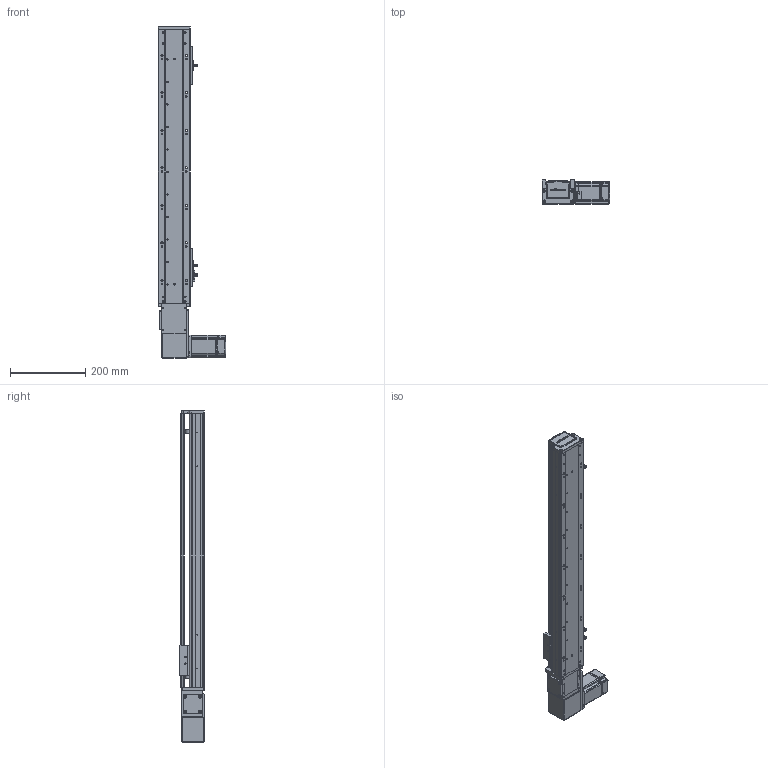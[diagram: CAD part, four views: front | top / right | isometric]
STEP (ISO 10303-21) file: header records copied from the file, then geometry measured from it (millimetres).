
FILE_DESCRIPTION (( 'STEP AP203' ), '1' );
FILE_NAME ('RY80-T-300-RK.SLDASM_550.step', '2021-03-01T02:06:40', ( '盈信电脑' ), ( '东莞市道滘镇水果街19号' ), 'SwSTEP 2.0', 'SolidWorks 2012', '' );
FILE_SCHEMA (( 'CONFIG_CONTROL_DESIGN' ));
Length unit declared in the file: millimetre
Products named in the file (20): 滅袉蝶18-10; RY80-T肮祭謫俋欶; RY100-T粣創揤踡裔; RY80-T-300-RK.SLDASM_550; RY80-T翋肮祭謫裔啣; RY80-T-M4蹟翐; RY80-T粣創揤踡輸; RY80-T萇儂假蚾啣; RY80-T肮祭湍揤輸2; RY80-T-翋肮祭謫釱; RY80-T肮祭湍揤輸1; 覜茼ん672; 侂狟200W萇儂; 1; RY80俋离覜茼え; RY80-T-300-RK倰第奻裔啣_550; 672嫖萇羲壽假蚾釱; RY80-T綴裔啣; RY80-T肮祭謫臏賑輸; RY80-T-300-RK倰第菁釱_550
Assembly tree (25 placements, depth 3):
  RY80-T-300-RK.SLDASM_550
    RY80-T-300-RK倰第菁釱_550
    RY80-T肮祭謫臏賑輸
    RY80-T-300-RK倰第奻裔啣_550
    RY80-T綴裔啣
    672嫖萇羲壽假蚾釱  x2
    覜茼ん672  x3
    RY80俋离覜茼え
    侂狟200W萇儂
      1
    RY80-T-翋肮祭謫釱
    RY80-T萇儂假蚾啣
    RY80-T肮祭湍揤輸1
    RY80-T肮祭湍揤輸2
    RY80-T粣創揤踡輸
    RY80-T-M4蹟翐  x2
    RY80-T翋肮祭謫裔啣  x2
    RY80-T肮祭謫俋欶
    滅袉蝶18-10  x2
    RY100-T粣創揤踡裔
Bounding box: 180 x 65 x 885 mm (x, y, z)
Volume: 1607770.9 mm3; surface area: 654005 mm2
Topology: 24 solids, 24 shells, 2477 faces, 6820 edges, 4431 vertices
Faces by surface type: plane 1332, cylinder 940, cone 149, bspline 56
Entity records: 77836 total; most frequent: CARTESIAN_POINT 18845, ORIENTED_EDGE 12084, DIRECTION 11372, EDGE_CURVE 6042, VERTEX_POINT 3972, AXIS2_PLACEMENT_3D 3823, VECTOR 3726, LINE 3726
